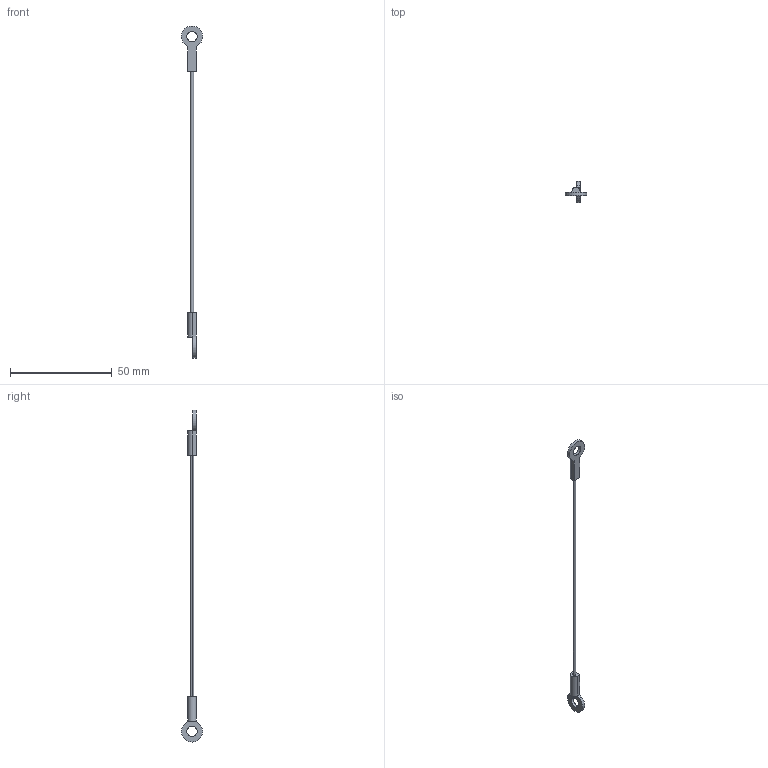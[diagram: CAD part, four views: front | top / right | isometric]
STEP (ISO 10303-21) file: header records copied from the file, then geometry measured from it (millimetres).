
FILE_DESCRIPTION (( 'STEP AP203' ), '1' );
FILE_NAME ('LA1070.I06-152B1.step', '2026-03-23T14:48:50', ( '' ), ( '' ), 'SwSTEP 2.0', 'SolidWorks 2019', '' );
FILE_SCHEMA (( 'CONFIG_CONTROL_DESIGN' ));
Length unit declared in the file: millimetre
Products named in the file (1): LA1070.I06-152B1
Bounding box: 10.4 x 10.38 x 162.79 mm (x, y, z)
Volume: 772.1 mm3; surface area: 1369 mm2
Topology: 1 solids, 1 shells, 27 faces, 65 edges, 42 vertices
Faces by surface type: plane 16, cylinder 11
Entity records: 874 total; most frequent: DIRECTION 143, CARTESIAN_POINT 135, ORIENTED_EDGE 130, EDGE_CURVE 65, AXIS2_PLACEMENT_3D 50, VECTOR 43, LINE 43, VERTEX_POINT 42
